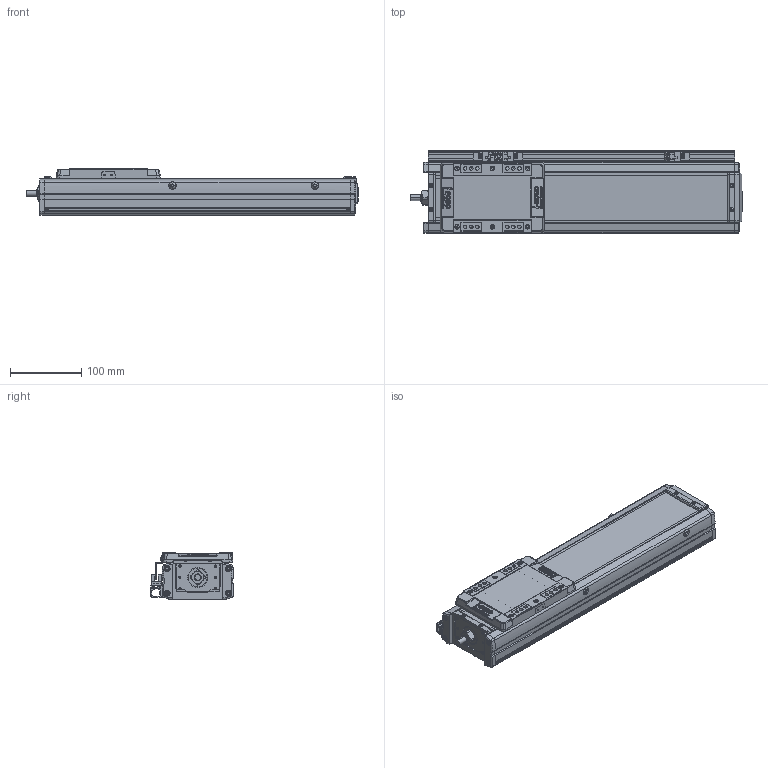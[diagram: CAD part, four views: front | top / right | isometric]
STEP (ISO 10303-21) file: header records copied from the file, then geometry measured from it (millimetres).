
FILE_DESCRIPTION(('STEP AP214'),'1');
FILE_NAME('Z:/Web/3D/SAN100/SAN100 양산용 (STEP)/SAN100ㅁㅁ-250+3SL.stp','2013-04-25T02:32:45',(' '),(' '),'Spatial InterOp 3D',' ',' ');
FILE_SCHEMA(('automotive_design'));
Length unit declared in the file: millimetre
Products named in the file (52): SGD-SAN100; M3.0 x 6.0; SRL-16x17-380L; EE-SX674; SBK-SX674-352; 스크루 : Round - M3.0 x 6.0; SUS COVER; SFX-SAN100; RRCV-SAN100; 스크루 : Round - M4.0 x 10.0; FRBL-SAN100; SLBL-SAN100; SLCV-SAN100; 스크루 : Countersunk - M3.0 x 6.0; BASE; 스크루 : Round - M5.0 x 6.0; 너트 : Square - M10.0 x 220.7419; RR1500-000L; FRCV-SAN100
Bounding box: 466 x 116 x 66 mm (x, y, z)
Volume: 1362987.2 mm3; surface area: 408116.7 mm2
Topology: 52 solids, 53 shells, 2411 faces, 6266 edges, 4059 vertices
Faces by surface type: plane 1318, cylinder 785, cone 206, sphere 64, torus 26, bspline 12
Entity records: 94969 total; most frequent: CARTESIAN_POINT 14174, DIRECTION 13157, ORIENTED_EDGE 12384, EDGE_CURVE 6192, AXIS2_PLACEMENT_3D 4631, VERTEX_POINT 4059, LINE 3895, VECTOR 3895
